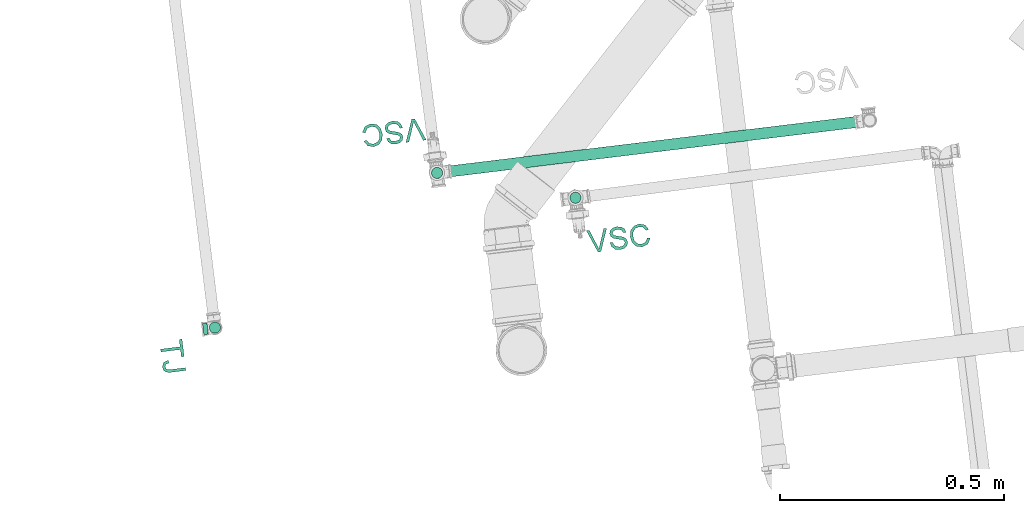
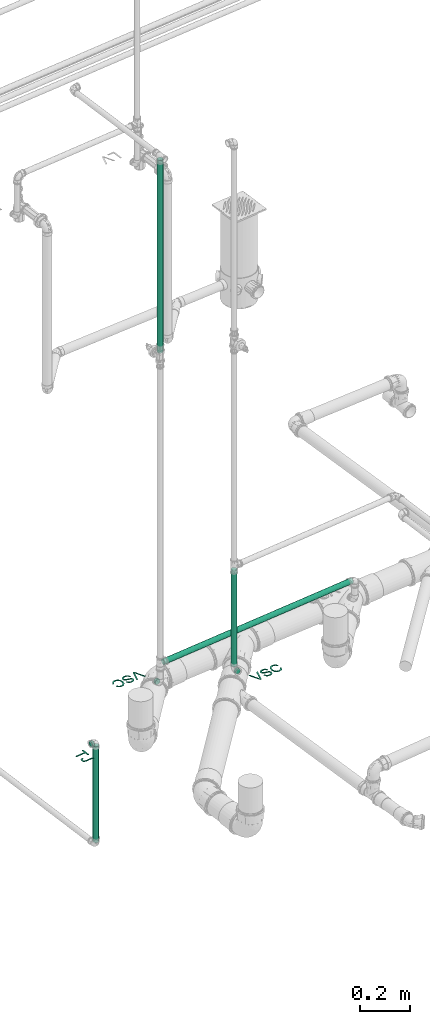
# One storey, part 10 of 97: 4 flow segments, 3 flow terminals.
"""IFC2X3 building model written with IfcOpenShell, lengths in centimetres."""

from ifc_helpers import new_model, entity, si_unit, converted_unit, derived_unit, direction, frame, frame_2d, origin, origin_2d_with_axis, place, context, subcontext, project, spatial, polyline, circle, outline, extrude, source, transform, mapped, material, material_list, type_object, type_shapes, element, save


model = new_model("IFC2X3")

# Units and contexts
model_context = context("Model", 3, precision=0.001, world=origin(), true_north=direction((6.12303176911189e-17, 1.0)))
body_context = subcontext(model_context, "Body", "Model", "MODEL_VIEW")
ifc_project = project(units=[si_unit("LENGTHUNIT", "METRE", prefix="CENTI"), si_unit("AREAUNIT", "SQUARE_METRE"), si_unit("VOLUMEUNIT", "CUBIC_METRE"), converted_unit("PLANEANGLEUNIT", "DEGREE", entity("IfcRatioMeasure", 0.0174532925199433), si_unit("PLANEANGLEUNIT", "RADIAN"), dimensions=[0, 0, 0, 0, 0, 0, 0]), si_unit("MASSUNIT", "GRAM", prefix="KILO"), derived_unit("MASSDENSITYUNIT", [(si_unit("MASSUNIT", "GRAM", prefix="KILO"), 1), (si_unit("LENGTHUNIT", "METRE"), -3)]), derived_unit("MOMENTOFINERTIAUNIT", [(si_unit("LENGTHUNIT", "METRE"), 4)]), si_unit("TIMEUNIT", "SECOND"), si_unit("FREQUENCYUNIT", "HERTZ"), si_unit("THERMODYNAMICTEMPERATUREUNIT", "DEGREE_CELSIUS"), derived_unit("THERMALTRANSMITTANCEUNIT", [(si_unit("MASSUNIT", "GRAM", prefix="KILO"), 1), (si_unit("THERMODYNAMICTEMPERATUREUNIT", "KELVIN"), -1), (si_unit("TIMEUNIT", "SECOND"), -3)]), derived_unit("VOLUMETRICFLOWRATEUNIT", [(si_unit("LENGTHUNIT", "METRE"), 3), (si_unit("TIMEUNIT", "SECOND"), -1)]), si_unit("ELECTRICCURRENTUNIT", "AMPERE"), si_unit("ELECTRICVOLTAGEUNIT", "VOLT"), si_unit("POWERUNIT", "WATT"), si_unit("FORCEUNIT", "NEWTON", prefix="KILO"), si_unit("ILLUMINANCEUNIT", "LUX"), si_unit("LUMINOUSFLUXUNIT", "LUMEN"), si_unit("LUMINOUSINTENSITYUNIT", "CANDELA"), derived_unit("USERDEFINED", [(si_unit("MASSUNIT", "GRAM", prefix="KILO"), -1), (si_unit("LENGTHUNIT", "METRE"), -2), (si_unit("TIMEUNIT", "SECOND"), 3), (si_unit("LUMINOUSFLUXUNIT", "LUMEN"), 1)]), derived_unit("LINEARVELOCITYUNIT", [(si_unit("LENGTHUNIT", "METRE"), 1), (si_unit("TIMEUNIT", "SECOND"), -1)]), si_unit("PRESSUREUNIT", "PASCAL"), derived_unit("USERDEFINED", [(si_unit("LENGTHUNIT", "METRE"), -2), (si_unit("MASSUNIT", "GRAM", prefix="KILO"), 1), (si_unit("TIMEUNIT", "SECOND"), -2)]), derived_unit("LINEARFORCEUNIT", [(si_unit("MASSUNIT", "GRAM", prefix="KILO"), 1), (si_unit("LENGTHUNIT", "METRE"), 1), (si_unit("TIMEUNIT", "SECOND"), -2), (si_unit("LENGTHUNIT", "METRE"), -1)]), derived_unit("PLANARFORCEUNIT", [(si_unit("MASSUNIT", "GRAM", prefix="KILO"), 1), (si_unit("LENGTHUNIT", "METRE"), 1), (si_unit("TIMEUNIT", "SECOND"), -2), (si_unit("LENGTHUNIT", "METRE"), -2)])], contexts=[model_context])

# Site, building, storey
site_placement = place(None, origin())
site = spatial("IfcSite", under=ifc_project, at=site_placement, Name="Default", CompositionType="ELEMENT")
building_placement = place(site_placement, origin())
building = spatial("IfcBuilding", under=site, at=building_placement, Name="HIDROSSANITÁRIO", CompositionType="ELEMENT")
storey_placement = place(building_placement, frame((0.0, 0.0, -260.0)))
storey = spatial("IfcBuildingStorey", under=building, at=storey_placement, Name="TÉRREO-HID", CompositionType="ELEMENT", Elevation=-260.0)

# Flow segments
pipe_segment_type = type_object("IfcPipeSegmentType", Name="Tipos de tubos:Tubo Marrom - Água Fria - Soldável", PredefinedType="NOTDEFINED")
flow_segment_1_placement = place(storey_placement, origin())
element("IfcFlowSegment", 1, at=flow_segment_1_placement, inside=storey, type_object=pipe_segment_type, Name="Tipos de tubos:Tubo Marrom - Água Fria - Soldável", ObjectType="Tipos de tubos:Tubo Marrom - Água Fria - Soldável", context=body_context, shape_type="SweptSolid", body=[
    extrude(circle(Radius=1.25, at=frame_2d((-2.61216974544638e-14, 0.0), x_axis=(1.0, 0.0))), frame((-1797.78662653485, 2884.13091219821, 30.0), z_axis=(0.992699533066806, 0.120613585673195, 0.0), x_axis=(-0.120613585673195, 0.992699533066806, 0.0)), (0.0, 0.0, 1.0), 94.2566759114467),
])
flow_segment_2_placement = place(storey_placement, origin())
element("IfcFlowSegment", 2, at=flow_segment_2_placement, inside=storey, type_object=pipe_segment_type, Name="Tipos de tubos:Tubo Marrom - Água Fria - Soldável", ObjectType="Tipos de tubos:Tubo Marrom - Água Fria - Soldável", context=body_context, shape_type="SweptSolid", body=[
    extrude(circle(Radius=1.25, at=origin_2d_with_axis()), frame((-1768.33138926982, 2878.4050435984, 21.63)), (0.0, 0.0, 1.0), 46.78),
])
flow_segment_3_placement = place(storey_placement, origin())
element("IfcFlowSegment", 3, at=flow_segment_3_placement, inside=storey, type_object=pipe_segment_type, Name="Tipos de tubos:Tubo Marrom - Água Fria - Soldável", ObjectType="Tipos de tubos:Tubo Marrom - Água Fria - Soldável", context=body_context, shape_type="SweptSolid", body=[
    extrude(circle(Radius=1.25, at=frame_2d((-1.26660106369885e-20, 9.83757240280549e-20), x_axis=(1.0, 0.0))), frame((-1799.22604085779, 2883.95602249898, 182.0), z_axis=(-9.35738857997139e-07, 7.26779649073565e-06, 1.0), x_axis=(-1.0, 0.0, -9.35738858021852e-07)), (0.0, 0.0, 1.0), 93.938890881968),
])
flow_segment_4_placement = place(storey_placement, origin())
element("IfcFlowSegment", 4, at=flow_segment_4_placement, inside=storey, type_object=pipe_segment_type, Name="Tipos de tubos:Tubo Marrom - Água Fria - Soldável", ObjectType="Tipos de tubos:Tubo Marrom - Água Fria - Soldável", context=body_context, shape_type="SweptSolid", body=[
    extrude(circle(Radius=1.25, at=origin_2d_with_axis()), frame((-1848.8215935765, 2849.4208449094, -18.46), z_axis=(0.0, 0.0, 1.0), x_axis=(-1.0, 0.0, 0.0)), (0.0, 0.0, 1.0), 46.83),
])

# Flow terminals
ifc_material_1 = material(Name=".ID PONTOS DE CONSUMO")
ifc_material_2 = material(Name="<Unnamed>")
ifc_material_list_1 = material_list([ifc_material_1, ifc_material_1, ifc_material_1, ifc_material_2])
ifc_material_list_2 = material_list([ifc_material_1, ifc_material_1, ifc_material_1, ifc_material_2])
distribution_element_type_1 = type_object("IfcDistributionElementType", Name="Pontos de Consumo :BACIA SANITARIA CAIXA ACOPLADA", material=ifc_material_list_2)
shared_shape_1 = source(origin(), body_context, "Body", "SweptSolid", [
    extrude(outline(polyline([(-0.291035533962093, -2.60978212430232), (0.357663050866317, -2.60978212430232), (2.27187569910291, 2.41303338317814), (1.59987792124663, 2.41303338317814), (0.258334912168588, -1.20569917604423), (-0.00899267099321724, -2.02117093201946), (-0.279999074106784, -1.20569917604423), (-1.61786326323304, 2.41303338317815), (-2.28986104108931, 2.41303338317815), (-0.291035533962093, -2.60978212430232)])), frame((-3.80140883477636, 8.38581599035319, 0.0), z_axis=(0.0, 0.0, 1.0), x_axis=(-1.0, 0.0, 0.0)), (0.0, 0.0, 1.0), 0.2),
    extrude(outline(polyline([(0.159986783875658, -2.14384430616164), (1.15649137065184, -2.14384430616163), (1.96068557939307, -1.63393256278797), (2.46863484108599, -0.612133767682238), (2.53870698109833, 0.35501055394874), (2.18730732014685, 1.12715089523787), (1.52572011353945, 1.54795570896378), (0.789276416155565, 1.5528298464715), (0.13430777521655, 1.10651277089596), (-0.471111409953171, 0.123091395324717), (-1.0874076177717, -0.768054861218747), (-1.56068636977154, -0.842013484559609), (-1.9855059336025, -0.428866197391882), (-1.94874467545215, 0.494808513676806), (-1.4949111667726, 1.29806637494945), (-0.777489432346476, 1.46486449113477), (-0.606740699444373, 2.06905231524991), (-1.430854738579, 2.04327069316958), (-2.11718460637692, 1.54911010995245), (-2.55960237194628, 0.64195615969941), (-2.6481064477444, -0.300227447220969), (-2.33838066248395, -1.04848451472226), (-1.71373428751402, -1.45120371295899), (-1.06523029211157, -1.45161416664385), (-0.470393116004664, -1.06476156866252), (0.0951992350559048, -0.201975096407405), (0.574519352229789, 0.612557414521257), (0.964937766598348, 0.945679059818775), (1.37031208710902, 0.9394324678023), (1.73780922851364, 0.690941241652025), (1.92586114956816, 0.197524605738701), (1.85777714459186, -0.464986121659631), (1.50727535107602, -1.14835302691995), (0.990539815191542, -1.51586299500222), (0.330735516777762, -1.5396564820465), (0.159986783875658, -2.14384430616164)])), frame((-8.44107816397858, 8.53201502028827, 0.0), z_axis=(0.0, 0.0, 1.0), x_axis=(-0.271957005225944, 0.9623094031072, 0.0)), (0.0, 0.0, 1.0), 0.2),
    extrude(outline(polyline([(-0.163864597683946, -1.7964904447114), (-0.337097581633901, -2.4213021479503), (1.13156474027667, -2.40853999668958), (2.16562908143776, -1.48721709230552), (2.53219172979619, -0.190439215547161), (2.08718308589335, 0.950570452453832), (1.05509329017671, 1.8489065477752), (-0.275927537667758, 2.27270776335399), (-1.46466906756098, 1.98187536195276), (-2.32904298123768, 1.08731397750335), (-2.61799066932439, -0.197577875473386), (-2.01807585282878, -1.36204183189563), (-1.57497165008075, -0.892746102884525), (-1.98665363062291, -0.0610798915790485), (-1.77280525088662, 0.795082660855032), (-1.04969465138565, 1.51204662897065), (-0.147902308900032, 1.63280778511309), (0.740549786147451, 1.30552643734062), (1.58306630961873, 0.601352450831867), (1.88727594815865, -0.254715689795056), (1.65286235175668, -1.11954933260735), (0.903279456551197, -1.7964904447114), (-0.163864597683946, -1.7964904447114)])), frame((-13.1807089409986, 8.45514997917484, 0.0), z_axis=(0.0, 0.0, -1.0), x_axis=(0.499291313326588, 0.866434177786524, 0.0)), (0.0, 0.0, -1.0), 0.2),
    extrude(circle(Radius=1.25, at=frame_2d((-6.58881963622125e-17, -2.01943071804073e-15), x_axis=(1.0, 0.0))), frame((0.0, 0.0, 0.0), z_axis=(0.0, 1.0, 0.0), x_axis=(1.0, 0.0, 0.0)), (0.0, 0.0, 1.0), 1.0),
])
type_shapes(distribution_element_type_1, [shared_shape_1])
flow_terminal_1_placement = place(storey_placement, frame((-1799.4251493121, 2885.57381600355, 20.0), z_axis=(0.0, 0.0, 1.0), x_axis=(0.992511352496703, 0.122152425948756, 0.0)))
element("IfcFlowTerminal", 5, at=flow_terminal_1_placement, inside=storey, type_object=distribution_element_type_1, material=ifc_material_list_1, Name="Pontos de Consumo :BACIA SANITARIA CAIXA ACOPLADA", ObjectType="Pontos de Consumo :BACIA SANITARIA CAIXA ACOPLADA", context=body_context, shape_type="MappedRepresentation", body=[
    mapped(shared_shape_1, transform((0.0, 0.0, 0.0), scale=1.0)),
])
ifc_material_list_3 = material_list([ifc_material_1, ifc_material_2])
flow_terminal_2_placement = place(storey_placement, frame((-1768.13228081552, 2876.78725009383, 20.0), z_axis=(0.0, 0.0, 1.0), x_axis=(-0.992511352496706, -0.122152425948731, 0.0)))
element("IfcFlowTerminal", 6, at=flow_terminal_2_placement, inside=storey, type_object=distribution_element_type_1, material=ifc_material_list_3, Name="Pontos de Consumo :BACIA SANITARIA CAIXA ACOPLADA", ObjectType="Pontos de Consumo :BACIA SANITARIA CAIXA ACOPLADA", context=body_context, shape_type="MappedRepresentation", body=[
    mapped(shared_shape_1, transform((0.0, 0.0, 0.0), scale=1.0)),
])
ifc_material_list_4 = material_list([ifc_material_1, ifc_material_1, ifc_material_2])
ifc_material_list_5 = material_list([ifc_material_1, ifc_material_1, ifc_material_2])
distribution_element_type_2 = type_object("IfcDistributionElementType", Name="Pontos de Consumo :TORNEIRA JARDIM", material=ifc_material_list_5)
shared_shape_2 = source(origin(), body_context, "Body", "SweptSolid", [
    extrude(outline(polyline([(-0.313925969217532, -3.45318566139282), (0.313925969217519, -3.45318566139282), (0.313925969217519, 0.941777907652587), (1.96203730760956, 0.941777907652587), (1.96203730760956, 1.56962984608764), (-1.96203730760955, 1.56962984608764), (-1.96203730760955, 0.941777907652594), (-0.313925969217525, 0.941777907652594), (-0.313925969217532, -3.45318566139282)])), frame((-3.5962124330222, 7.54241245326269, 0.0), z_axis=(0.0, 0.0, 1.0), x_axis=(-1.0, 0.0, 0.0)), (0.0, 0.0, 1.0), 0.2),
    extrude(outline(polyline([(-0.450956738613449, -1.56621722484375), (0.712677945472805, -1.56621722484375), (1.36205152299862, -0.710503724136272), (1.41119061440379, 0.0809590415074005), (1.04574212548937, 0.693262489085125), (0.15552303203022, 1.11993163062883), (-3.11652597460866, 2.10676864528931), (-3.29781788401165, 1.50566025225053), (-0.0152025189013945, 0.51563646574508), (0.560970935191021, 0.270778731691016), (0.784949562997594, -0.0567809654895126), (0.769441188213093, -0.501034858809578), (0.425107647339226, -0.950504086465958), (-0.347151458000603, -0.94173917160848), (-0.450956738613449, -1.56621722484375)])), frame((-7.58037444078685, 9.56488751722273, 0.0), z_axis=(0.0, 0.0, 1.0), x_axis=(-0.288749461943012, 0.957404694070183, 0.0)), (0.0, 0.0, 1.0), 0.2),
    extrude(circle(Radius=1.25, at=frame_2d((-6.58881963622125e-17, -2.01943071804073e-15), x_axis=(1.0, 0.0))), frame((0.0, 0.0, 0.0), z_axis=(0.0, 1.0, 0.0), x_axis=(1.0, 0.0, 0.0)), (0.0, 0.0, 1.0), 1.0),
])
type_shapes(distribution_element_type_2, [shared_shape_2])
flow_terminal_3_placement = place(storey_placement, frame((-1850.43938708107, 2849.2217364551, 30.0), z_axis=(0.0, 0.0, 1.0), x_axis=(-0.122152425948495, 0.992511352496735, 0.0)))
element("IfcFlowTerminal", 7, at=flow_terminal_3_placement, inside=storey, type_object=distribution_element_type_2, material=ifc_material_list_4, Name="Pontos de Consumo :TORNEIRA JARDIM", ObjectType="Pontos de Consumo :TORNEIRA JARDIM", context=body_context, shape_type="MappedRepresentation", body=[
    mapped(shared_shape_2, transform((0.0, 0.0, 0.0), scale=1.0)),
])

save(model, "model.ifc")
